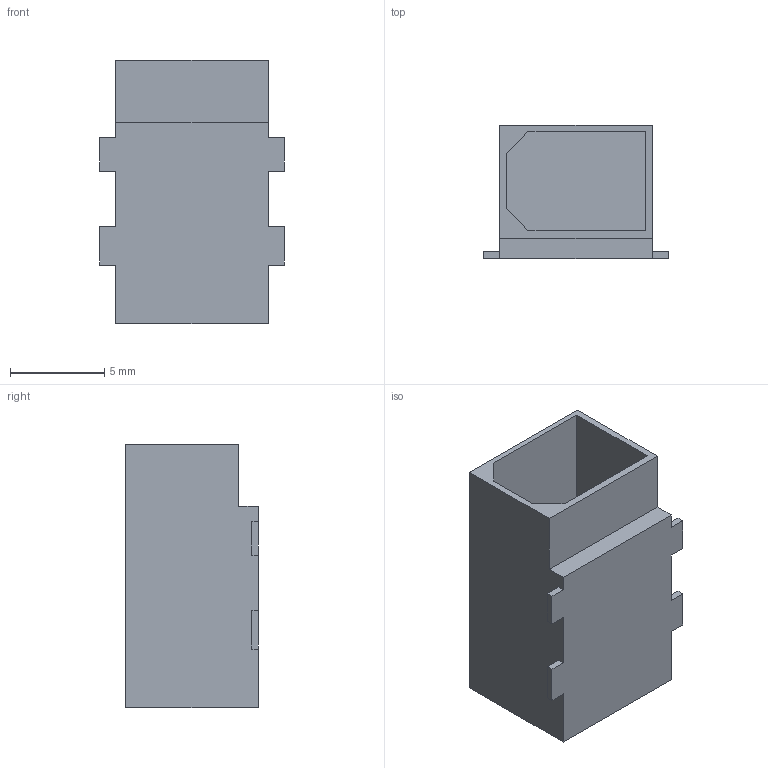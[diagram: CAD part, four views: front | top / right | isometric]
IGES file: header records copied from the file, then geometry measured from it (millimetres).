
Start section:  PTC IGES file: j4a-cn8.igs
Global section: file name: j4a-cn8.igs; native system: Pro/ENGINEER by Parametric Technology Corporation; preprocessor: 2010160; author: CV86875; organization: Unknown; date: 20121031.194046; units: millimetre
Bounding box: 9.81 x 7.05 x 14 mm (x, y, z)
Volume: 396.1 mm3; surface area: 787.6 mm2
Topology: 1 solids, 1 shells, 31 faces, 84 edges, 56 vertices
Faces by surface type: bspline 31
